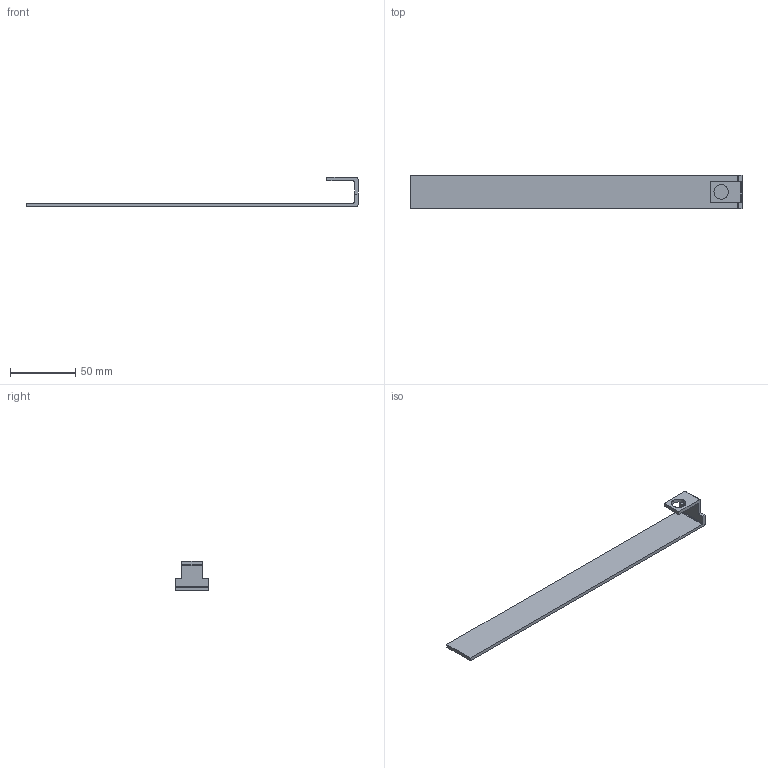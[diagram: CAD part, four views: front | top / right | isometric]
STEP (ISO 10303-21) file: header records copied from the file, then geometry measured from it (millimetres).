
FILE_DESCRIPTION(('TurboCAD Mac Pro'),'Build 980');
FILE_NAME('P1655A.stp',' ',(''),(''),'ACIS Interop','IMSI','TurboCAD Mac Pro BY IMSI, INCORPORATED');
FILE_SCHEMA(('automotive_design'));
Length unit declared in the file: inch
Products named in the file (1): 1
Bounding box: 254 x 25.4 x 22.23 mm (x, y, z)
Volume: 18834.5 mm3; surface area: 15897.9 mm2
Topology: 1 solids, 1 shells, 26 faces, 72 edges, 48 vertices
Faces by surface type: plane 14, cylinder 8, bspline 4
Entity records: 1092 total; most frequent: CARTESIAN_POINT 199, ORIENTED_EDGE 144, DIRECTION 126, EDGE_CURVE 72, VERTEX_POINT 48, LINE 48, VECTOR 48, AXIS2_PLACEMENT_3D 39
